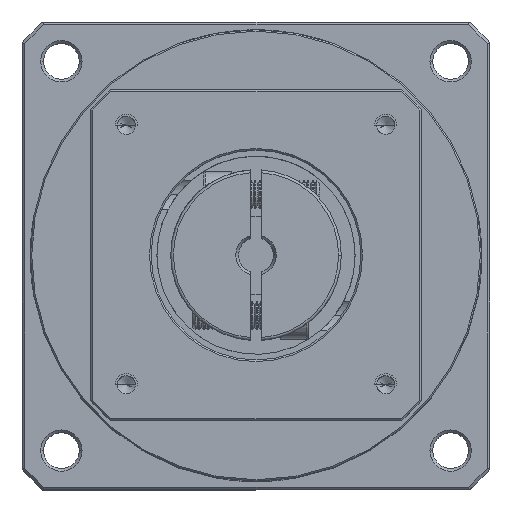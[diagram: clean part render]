
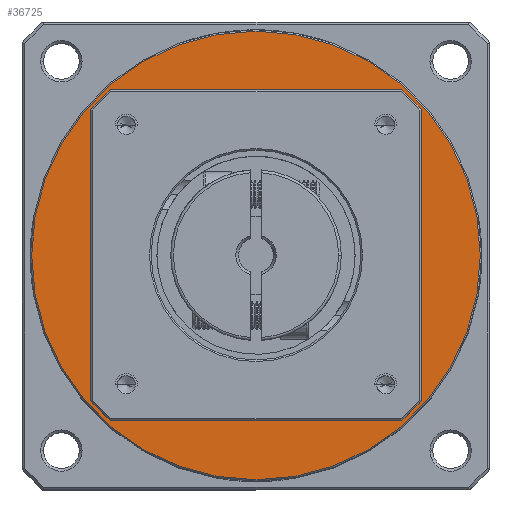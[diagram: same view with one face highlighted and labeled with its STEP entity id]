
A CAD part, top view. The second image highlights one B-rep face of the part: STEP entity #36725.
In plain terms, the highlighted planar face has unit normal (0, 0, 1).
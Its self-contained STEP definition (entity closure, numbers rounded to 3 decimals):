
#2870 = VERTEX_POINT ( 'NONE', #26583 ) ;
#4289 = AXIS2_PLACEMENT_3D ( 'NONE', #89234, #80702, #98982 ) ;
#7344 = ORIENTED_EDGE ( 'NONE', *, *, #55097, .T. ) ;
#21211 = VERTEX_POINT ( 'NONE', #105065 ) ;
#24503 = CARTESIAN_POINT ( 'NONE',  ( -5.588, -4.071, 157.15 ) ) ;
#24705 = FACE_BOUND ( 'NONE', #96218, .T. ) ;
#26583 = CARTESIAN_POINT ( 'NONE',  ( 5.162, -4.071, 157.15 ) ) ;
#27360 = CIRCLE ( 'NONE', #37799, 40.75 ) ;
#28799 = DIRECTION ( 'NONE',  ( 0., 0., 1. ) ) ;
#29260 = CARTESIAN_POINT ( 'NONE',  ( -35.588, -4.071, 157.15 ) ) ;
#30108 = DIRECTION ( 'NONE',  ( 0., 0., 1. ) ) ;
#34054 = DIRECTION ( 'NONE',  ( 0., 0., 1. ) ) ;
#36725 = ADVANCED_FACE ( 'NONE', ( #24705, #125341 ), #57356, .T. ) ;
#37799 = AXIS2_PLACEMENT_3D ( 'NONE', #103376, #34054, #43912 ) ;
#41477 = AXIS2_PLACEMENT_3D ( 'NONE', #29260, #30108, #117815 ) ;
#43912 = DIRECTION ( 'NONE',  ( 1., 0., 0. ) ) ;
#54929 = AXIS2_PLACEMENT_3D ( 'NONE', #95478, #114397, #115218 ) ;
#55097 = EDGE_CURVE ( 'NONE', #69216, #2870, #55324, .T. ) ;
#55324 = CIRCLE ( 'NONE', #4289, 40.75 ) ;
#57356 = PLANE ( 'NONE',  #114610 ) ;
#58159 = EDGE_CURVE ( 'NONE', #94373, #21211, #122931, .T. ) ;
#60779 = EDGE_CURVE ( 'NONE', #21211, #94373, #81218, .T. ) ;
#65667 = EDGE_CURVE ( 'NONE', #2870, #69216, #27360, .T. ) ;
#67142 = CARTESIAN_POINT ( 'NONE',  ( -35.588, -4.071, 157.15 ) ) ;
#69216 = VERTEX_POINT ( 'NONE', #87306 ) ;
#80702 = DIRECTION ( 'NONE',  ( 0., 0., 1. ) ) ;
#81218 = CIRCLE ( 'NONE', #54929, 30. ) ;
#83158 = ORIENTED_EDGE ( 'NONE', *, *, #58159, .F. ) ;
#87306 = CARTESIAN_POINT ( 'NONE',  ( -76.338, -4.071, 157.15 ) ) ;
#89234 = CARTESIAN_POINT ( 'NONE',  ( -35.588, -4.071, 157.15 ) ) ;
#90782 = ORIENTED_EDGE ( 'NONE', *, *, #65667, .T. ) ;
#94373 = VERTEX_POINT ( 'NONE', #24503 ) ;
#95478 = CARTESIAN_POINT ( 'NONE',  ( -35.588, -4.071, 157.15 ) ) ;
#95587 = ORIENTED_EDGE ( 'NONE', *, *, #60779, .F. ) ;
#95956 = DIRECTION ( 'NONE',  ( 1., 0., 0. ) ) ;
#96136 = EDGE_LOOP ( 'NONE', ( #7344, #90782 ) ) ;
#96218 = EDGE_LOOP ( 'NONE', ( #95587, #83158 ) ) ;
#98982 = DIRECTION ( 'NONE',  ( 1., 0., 0. ) ) ;
#103376 = CARTESIAN_POINT ( 'NONE',  ( -35.588, -4.071, 157.15 ) ) ;
#105065 = CARTESIAN_POINT ( 'NONE',  ( -65.588, -4.071, 157.15 ) ) ;
#114397 = DIRECTION ( 'NONE',  ( 0., 0., 1. ) ) ;
#114610 = AXIS2_PLACEMENT_3D ( 'NONE', #67142, #28799, #95956 ) ;
#115218 = DIRECTION ( 'NONE',  ( 1., 0., 0. ) ) ;
#117815 = DIRECTION ( 'NONE',  ( 1., 0., 0. ) ) ;
#122931 = CIRCLE ( 'NONE', #41477, 30. ) ;
#125341 = FACE_OUTER_BOUND ( 'NONE', #96136, .T. ) ;
